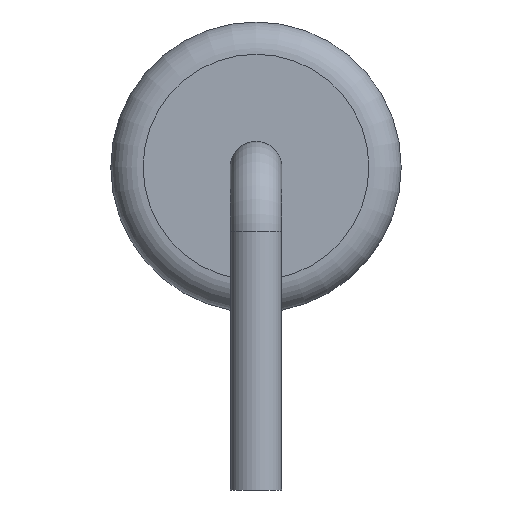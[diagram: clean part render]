
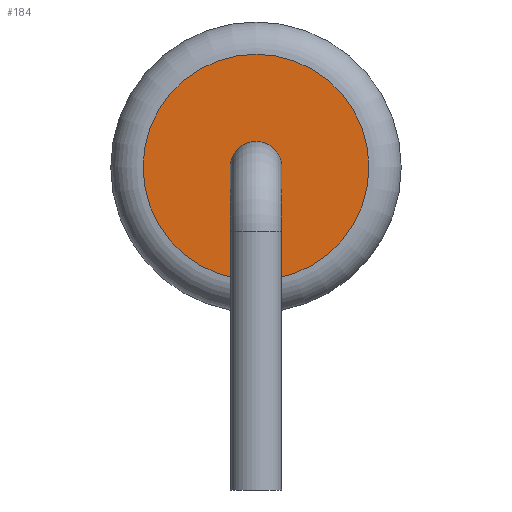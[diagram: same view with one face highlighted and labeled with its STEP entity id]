
A CAD part, left-side view. The second image highlights one B-rep face of the part: STEP entity #184.
In plain terms, the highlighted planar face has unit normal (-1, 0, 0).
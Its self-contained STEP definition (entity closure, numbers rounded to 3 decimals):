
#184=ADVANCED_FACE('',(#353,#355),#357,.T.);
#353=FACE_BOUND('',#354,.T.);
#354=EDGE_LOOP('',(#423));
#355=FACE_BOUND('',#356,.T.);
#356=EDGE_LOOP('',(#424));
#357=PLANE('',#358);
#358=AXIS2_PLACEMENT_3D('',#359,#360,#361);
#359=CARTESIAN_POINT('',(-5.75,0.,0.));
#360=DIRECTION('',(-1.,0.,0.));
#361=DIRECTION('',(0.,0.,1.));
#423=ORIENTED_EDGE('',*,*,#445,.T.);
#424=ORIENTED_EDGE('',*,*,#446,.F.);
#445=EDGE_CURVE('',#476,#476,#477,.T.);
#446=EDGE_CURVE('',#478,#478,#479,.T.);
#476=VERTEX_POINT('',#551);
#477=CIRCLE('',#552,1.75);
#478=VERTEX_POINT('',#556);
#479=CIRCLE('',#557,0.4);
#551=CARTESIAN_POINT('',(-5.75,0.,1.75));
#552=AXIS2_PLACEMENT_3D('',#553,#554,#555);
#553=CARTESIAN_POINT('',(-5.75,0.,0.));
#554=DIRECTION('',(-1.,0.,0.));
#555=DIRECTION('',(0.,0.,1.));
#556=CARTESIAN_POINT('',(-5.75,-0.4,0.));
#557=AXIS2_PLACEMENT_3D('',#558,#559,#560);
#558=CARTESIAN_POINT('',(-5.75,0.,0.));
#559=DIRECTION('',(-1.,0.,0.));
#560=DIRECTION('',(-0.,-1.,0.));
